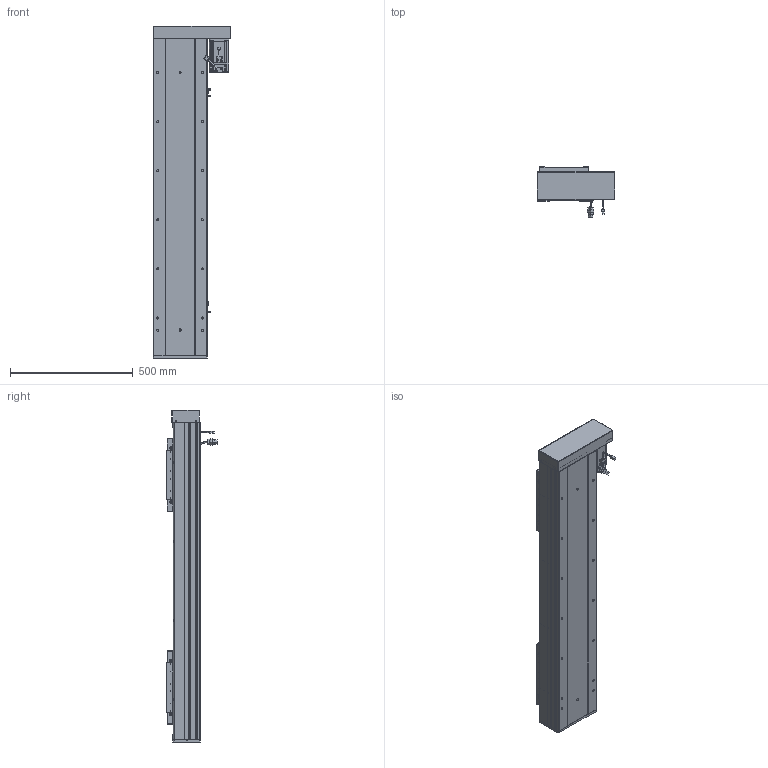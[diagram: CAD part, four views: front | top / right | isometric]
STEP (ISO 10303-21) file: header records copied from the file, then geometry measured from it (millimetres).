
FILE_DESCRIPTION (( 'STEP AP203' ), '1' );
FILE_NAME ('RY220F-L2525-800-RK-邧嶺.SLDASM_850.step', '2022-08-06T08:18:55', ( '' ), ( '' ), 'SwSTEP 2.0', 'SolidWorks 2016', '' );
FILE_SCHEMA (( 'CONFIG_CONTROL_DESIGN' ));
Length unit declared in the file: millimetre
Products named in the file (15): RY220酘衵殏萇儂欶; 怢湛750W_ECMA-CX0807ES; 侐源滅袉蝶; RY220F蛌殏菁釱-800-邧嶺_850; 覜茼ん672; RY220F-滅鳥奻裔; RY220F-672覜茼んえ; RY220左右折电机安装板; RY220F臏賑釱25-32佪裝; RY220F-L2525-800-RK-邧嶺.SLDASM_850; RY220F綴裔啣; RY220F-祥凄詩湍-蛌殏-800_850; RY220F-蛌殏奻裔啣-800_850; RY220F-詩湍揤踡輸; 滅袉蝶18-24
Assembly tree (24 placements, depth 2):
  RY220F-L2525-800-RK-邧嶺.SLDASM_850
    RY220F蛌殏菁釱-800-邧嶺_850
    RY220F-蛌殏奻裔啣-800_850  x2
    怢湛750W_ECMA-CX0807ES
    RY220F臏賑釱25-32佪裝  x2
    RY220F-滅鳥奻裔  x2
    滅袉蝶18-24  x3
    RY220F綴裔啣
    RY220F-祥凄詩湍-蛌殏-800_850
    RY220F-詩湍揤踡輸  x2
    覜茼ん672  x3
    RY220F-672覜茼んえ  x2
    RY220左右折电机安装板
    RY220酘衵殏萇儂欶
    侐源滅袉蝶  x2
Bounding box: 317.5 x 205.27 x 1353 mm (x, y, z)
Volume: 13634704.4 mm3; surface area: 3550311.3 mm2
Topology: 25 solids, 25 shells, 2736 faces, 7448 edges, 4618 vertices
Faces by surface type: cylinder 1230, plane 1044, cone 391, bspline 45, sphere 16, torus 10
Entity records: 67812 total; most frequent: CARTESIAN_POINT 18503, ORIENTED_EDGE 9974, DIRECTION 9664, EDGE_CURVE 4987, AXIS2_PLACEMENT_3D 3430, VERTEX_POINT 3234, VECTOR 2804, LINE 2804
